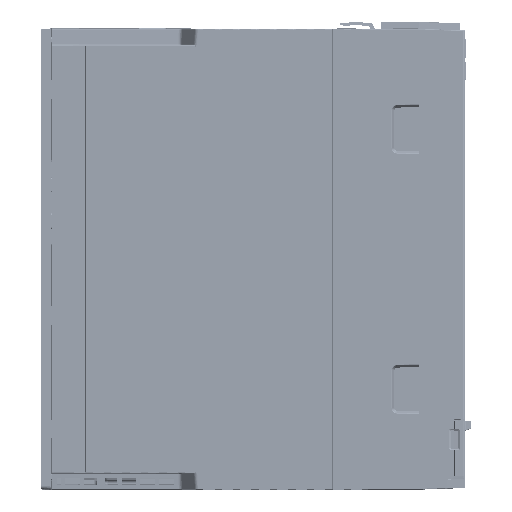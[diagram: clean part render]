
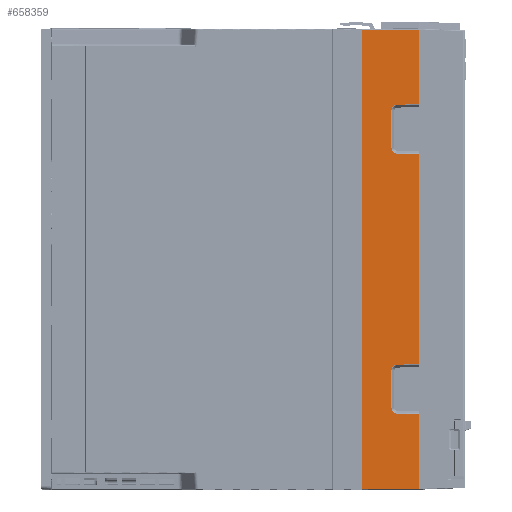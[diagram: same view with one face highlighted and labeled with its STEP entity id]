
A CAD part, left-side view. The second image highlights one B-rep face of the part: STEP entity #658359.
In plain terms, the highlighted planar face has unit normal (-1, 0, 0) as drawn and (0, 0, 1) by its records, which use the part's own axes.
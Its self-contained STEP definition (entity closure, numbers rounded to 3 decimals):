
#597066=CARTESIAN_POINT('',(-100.034,124.5,30.577));
#597075=DIRECTION('',(0.,1.,0.));
#597076=VECTOR('',#597075,40.43);
#597077=CARTESIAN_POINT('',(-100.034,84.07,
30.577));
#597078=LINE('',#597077,#597076);
#597112=DIRECTION('',(0.,1.,0.));
#597113=VECTOR('',#597112,113.859);
#597114=CARTESIAN_POINT('',(-100.034,-56.93,
30.577));
#597115=LINE('',#597114,#597113);
#597149=DIRECTION('',(0.,1.,0.));
#597150=VECTOR('',#597149,40.43);
#597151=CARTESIAN_POINT('',(-100.034,-124.5,30.577));
#597152=LINE('',#597151,#597150);
#607444=DIRECTION('',(-1.,0.,0.));
#607445=VECTOR('',#607444,30.849);
#607446=CARTESIAN_POINT('',(-69.185,-124.5,30.577));
#607447=LINE('',#607446,#607445);
#607728=DIRECTION('',(-1.,-0.022,0.));
#607729=VECTOR('',#607728,11.904);
#607730=CARTESIAN_POINT('',(-88.133,-83.812,
30.577));
#607731=LINE('',#607730,#607729);
#607735=CARTESIAN_POINT('',(-88.2,-80.739,30.577));
#607736=DIRECTION('',(0.,0.,-1.));
#607737=DIRECTION('',(1.,0.,0.));
#607738=AXIS2_PLACEMENT_3D('',#607735,#607736,#607737);
#607743=CARTESIAN_POINT('',(-88.2,-60.261,30.577));
#607744=DIRECTION('',(0.,0.,-1.));
#607745=DIRECTION('',(0.022,1.,0.));
#607746=AXIS2_PLACEMENT_3D('',#607743,#607744,#607745);
#607751=DIRECTION('',(1.,-0.022,0.));
#607752=VECTOR('',#607751,11.904);
#607753=CARTESIAN_POINT('',(-100.034,-56.93,
30.577));
#607754=LINE('',#607753,#607752);
#607758=DIRECTION('',(-1.,-0.022,0.));
#607759=VECTOR('',#607758,11.904);
#607760=CARTESIAN_POINT('',(-88.133,57.188,
30.577));
#607761=LINE('',#607760,#607759);
#607765=CARTESIAN_POINT('',(-88.2,60.261,30.577));
#607766=DIRECTION('',(0.,0.,-1.));
#607767=DIRECTION('',(1.,0.,0.));
#607768=AXIS2_PLACEMENT_3D('',#607765,#607766,#607767);
#607773=CARTESIAN_POINT('',(-88.2,80.739,30.577));
#607774=DIRECTION('',(0.,0.,-1.));
#607775=DIRECTION('',(0.022,1.,0.));
#607776=AXIS2_PLACEMENT_3D('',#607773,#607774,#607775);
#607781=DIRECTION('',(1.,-0.022,0.));
#607782=VECTOR('',#607781,11.904);
#607783=CARTESIAN_POINT('',(-100.034,84.07,
30.577));
#607784=LINE('',#607783,#607782);
#607861=DIRECTION('',(0.,1.,0.));
#607862=VECTOR('',#607861,20.478);
#607863=CARTESIAN_POINT('',(-85.127,-80.739,
30.577));
#607864=LINE('',#607863,#607862);
#608093=DIRECTION('',(0.,1.,0.));
#608094=VECTOR('',#608093,20.478);
#608095=CARTESIAN_POINT('',(-85.127,60.261,
30.577));
#608096=LINE('',#608095,#608094);
#608378=DIRECTION('',(1.,0.,0.));
#608379=VECTOR('',#608378,30.849);
#608380=CARTESIAN_POINT('',(-100.034,124.5,30.577));
#608381=LINE('',#608380,#608379);
#608795=DIRECTION('',(0.,-1.,0.));
#608796=VECTOR('',#608795,249.);
#608797=CARTESIAN_POINT('',(-69.185,124.5,30.577));
#608798=LINE('',#608797,#608796);
#641140=CARTESIAN_POINT('',(-85.127,-80.739,
30.577));
#641141=VERTEX_POINT('',#641140);
#641142=CARTESIAN_POINT('',(-88.133,-83.812,
30.577));
#641143=VERTEX_POINT('',#641142);
#641144=CARTESIAN_POINT('',(-85.127,-60.261,
30.577));
#641145=VERTEX_POINT('',#641144);
#641146=CARTESIAN_POINT('',(-88.133,-57.188,
30.577));
#641147=VERTEX_POINT('',#641146);
#641148=CARTESIAN_POINT('',(-85.127,60.261,
30.577));
#641149=VERTEX_POINT('',#641148);
#641150=CARTESIAN_POINT('',(-88.133,57.188,
30.577));
#641151=VERTEX_POINT('',#641150);
#641152=CARTESIAN_POINT('',(-85.127,80.739,
30.577));
#641153=VERTEX_POINT('',#641152);
#641154=CARTESIAN_POINT('',(-88.133,83.812,
30.577));
#641155=VERTEX_POINT('',#641154);
#641156=CARTESIAN_POINT('',(-69.185,124.5,30.577));
#641157=CARTESIAN_POINT('',(-69.185,-124.5,30.577));
#641158=VERTEX_POINT('',#641156);
#641159=VERTEX_POINT('',#641157);
#641755=VERTEX_POINT('',#597066);
#641758=CARTESIAN_POINT('',(-100.034,84.07,
30.577));
#641759=VERTEX_POINT('',#641758);
#641766=CARTESIAN_POINT('',(-100.034,56.93,
30.577));
#641767=VERTEX_POINT('',#641766);
#641770=CARTESIAN_POINT('',(-100.034,-56.93,
30.577));
#641771=VERTEX_POINT('',#641770);
#641778=CARTESIAN_POINT('',(-100.034,-84.07,
30.577));
#641779=VERTEX_POINT('',#641778);
#641780=CARTESIAN_POINT('',(-100.034,-124.5,30.577));
#641781=VERTEX_POINT('',#641780);
#658324=CARTESIAN_POINT('',(-125.15,125.,30.577));
#658325=DIRECTION('',(0.,0.,1.));
#658326=DIRECTION('',(0.,1.,0.));
#658327=AXIS2_PLACEMENT_3D('',#658324,#658325,#658326);
#658328=PLANE('',#658327);
#658329=ORIENTED_EDGE('',*,*,#649086,.T.);
#658331=ORIENTED_EDGE('',*,*,#658330,.F.);
#658333=ORIENTED_EDGE('',*,*,#658332,.F.);
#658335=ORIENTED_EDGE('',*,*,#658334,.T.);
#658337=ORIENTED_EDGE('',*,*,#658336,.F.);
#658339=ORIENTED_EDGE('',*,*,#658338,.F.);
#658340=ORIENTED_EDGE('',*,*,#649074,.T.);
#658342=ORIENTED_EDGE('',*,*,#658341,.F.);
#658344=ORIENTED_EDGE('',*,*,#658343,.F.);
#658346=ORIENTED_EDGE('',*,*,#658345,.T.);
#658348=ORIENTED_EDGE('',*,*,#658347,.F.);
#658350=ORIENTED_EDGE('',*,*,#658349,.F.);
#658351=ORIENTED_EDGE('',*,*,#649062,.T.);
#658353=ORIENTED_EDGE('',*,*,#658352,.T.);
#658355=ORIENTED_EDGE('',*,*,#658354,.T.);
#658356=ORIENTED_EDGE('',*,*,#658244,.T.);
#658357=EDGE_LOOP('',(#658329,#658331,#658333,#658335,#658337,#658339,#658340,
#658342,#658344,#658346,#658348,#658350,#658351,#658353,#658355,#658356));
#658358=FACE_OUTER_BOUND('',#658357,.F.);
#658359=ADVANCED_FACE('',(#658358),#658328,.T.);
#607739=CIRCLE('',#607738,3.073);
#607747=CIRCLE('',#607746,3.073);
#607769=CIRCLE('',#607768,3.073);
#607777=CIRCLE('',#607776,3.073);
#649062=EDGE_CURVE('',#641759,#641755,#597078,.T.);
#649074=EDGE_CURVE('',#641771,#641767,#597115,.T.);
#649086=EDGE_CURVE('',#641781,#641779,#597152,.T.);
#658244=EDGE_CURVE('',#641159,#641781,#607447,.T.);
#658330=EDGE_CURVE('',#641143,#641779,#607731,.T.);
#658332=EDGE_CURVE('',#641141,#641143,#607739,.T.);
#658334=EDGE_CURVE('',#641141,#641145,#607864,.T.);
#658336=EDGE_CURVE('',#641147,#641145,#607747,.T.);
#658338=EDGE_CURVE('',#641771,#641147,#607754,.T.);
#658341=EDGE_CURVE('',#641151,#641767,#607761,.T.);
#658343=EDGE_CURVE('',#641149,#641151,#607769,.T.);
#658345=EDGE_CURVE('',#641149,#641153,#608096,.T.);
#658347=EDGE_CURVE('',#641155,#641153,#607777,.T.);
#658349=EDGE_CURVE('',#641759,#641155,#607784,.T.);
#658352=EDGE_CURVE('',#641755,#641158,#608381,.T.);
#658354=EDGE_CURVE('',#641158,#641159,#608798,.T.);
